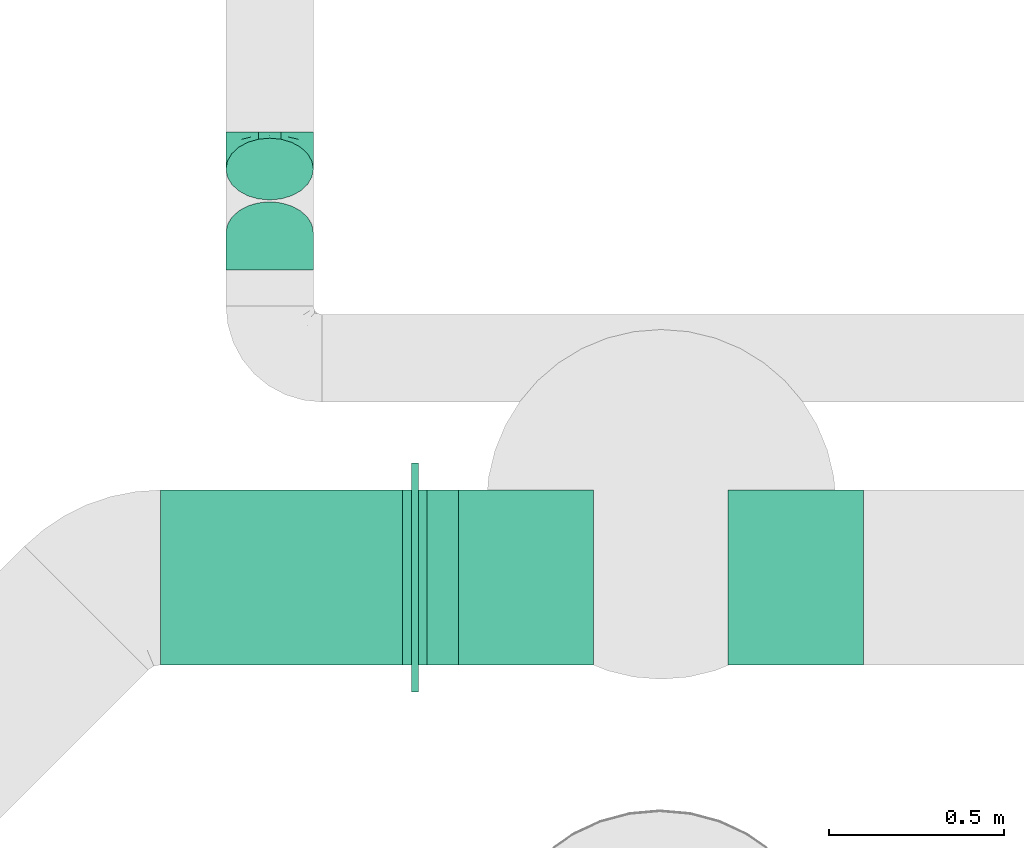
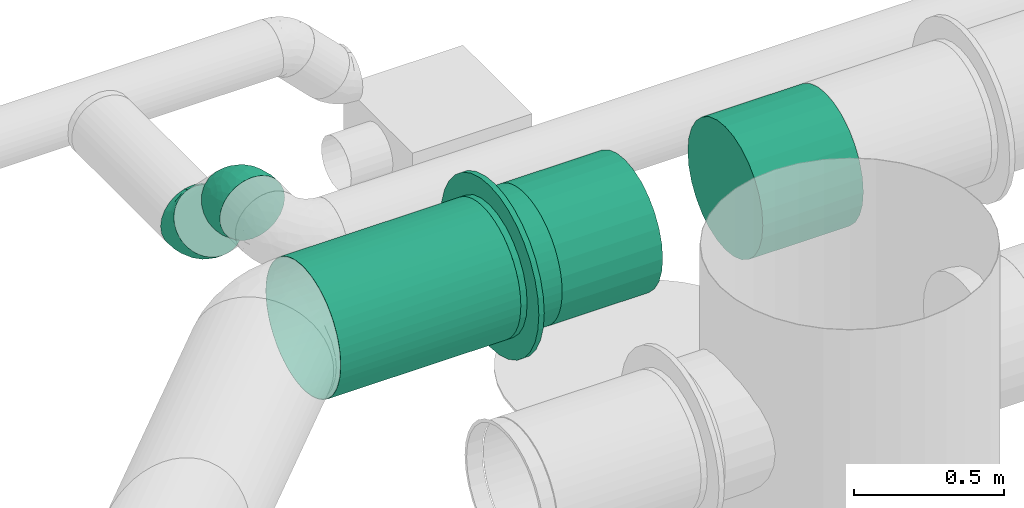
# One storey, part 12 of 31: 4 flow fittings, 2 flow segments, 1 flow controller.
"""IFC2X3 building model written with IfcOpenShell, lengths in millimetres."""

from ifc_helpers import new_model, entity, si_unit, converted_unit, derived_unit, direction, frame, origin_with_axes, origin_2d_with_axis, place, context, subcontext, project, spatial, hollow_circle, extrude, open_shell, surface_model, source, transform, mapped, type_object, element, save


model = new_model("IFC2X3")

# Units and contexts
model_context = context("Model", 3, precision=0.01, world=frame((0.0, 4.29681676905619e-09, 0.0)), true_north=direction((4.01073788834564e-13, 1.0)))
plan_context = context("Plan", 3, precision=0.01, world=frame((0.0, 4.29681676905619e-09, 0.0)), true_north=direction((4.01073788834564e-13, 1.0)))
body_context = subcontext(model_context, "Body", "Model", "MODEL_VIEW")
ifc_project = project(units=[converted_unit("PLANEANGLEUNIT", "DEGREE", entity("IfcPositiveLengthMeasure", 0.0174532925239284), si_unit("PLANEANGLEUNIT", "RADIAN"), dimensions=[0, 0, 0, 0, 0, 0, 0]), si_unit("AREAUNIT", "SQUARE_METRE"), si_unit("LENGTHUNIT", "METRE", prefix="MILLI"), si_unit("MASSUNIT", "GRAM", prefix="KILO"), si_unit("POWERUNIT", "WATT"), si_unit("PRESSUREUNIT", "PASCAL", prefix="KILO"), si_unit("FORCEUNIT", "NEWTON", prefix="KILO"), si_unit("ELECTRICVOLTAGEUNIT", "VOLT"), si_unit("ELECTRICCURRENTUNIT", "AMPERE"), si_unit("THERMODYNAMICTEMPERATUREUNIT", "DEGREE_CELSIUS"), si_unit("TIMEUNIT", "SECOND"), si_unit("VOLUMEUNIT", "CUBIC_METRE"), derived_unit("LINEARVELOCITYUNIT", [(si_unit("LENGTHUNIT", "METRE"), 1), (si_unit("TIMEUNIT", "SECOND"), -1)]), derived_unit("VOLUMETRICFLOWRATEUNIT", [(si_unit("VOLUMEUNIT", "CUBIC_METRE"), 1), (si_unit("TIMEUNIT", "SECOND"), -1)]), derived_unit("THERMALTRANSMITTANCEUNIT", [(si_unit("POWERUNIT", "WATT"), 1), (si_unit("THERMODYNAMICTEMPERATUREUNIT", "KELVIN"), -1), (si_unit("AREAUNIT", "SQUARE_METRE"), -1)]), derived_unit("SOUNDPRESSUREUNIT", [(si_unit("PRESSUREUNIT", "PASCAL"), 1)])], contexts=[model_context, plan_context])

# Site, building, storey
site_placement = place(None, frame((0.0, -4.29681676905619e-09, 0.0), z_axis=(0.0, 0.0, 1.0), x_axis=(1.0, 0.0, 0.0)))
site = spatial("IfcSite", under=ifc_project, at=site_placement, CompositionType="ELEMENT")
building_placement = place(site_placement, frame((0.0, 4.29681676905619e-09, 0.0), z_axis=(0.0, 0.0, 1.0), x_axis=(1.0, 0.0, 0.0)))
building = spatial("IfcBuilding", under=site, at=building_placement, Name="mc-building", CompositionType="ELEMENT")
storey_placement = place(building_placement, frame((0.0, 0.0, 210900.0), z_axis=(0.0, 0.0, 1.0), x_axis=(1.0, 0.0, 0.0)))
storey = spatial("IfcBuildingStorey", under=building, at=storey_placement, Name="Nivå F", CompositionType="ELEMENT", Elevation=210900.0)

# Flow controller
damper_type = type_object("IfcDamperType", Name="IRIS-050", PredefinedType="BALANCINGDAMPER")
shared_shape_1 = source(origin_with_axes(), body_context, "Body", "SurfaceModel", [
    surface_model("IfcShellBasedSurfaceModel", [(35.0, 225.24221, -108.47093), (35.0, 55.63023, -243.73198), (35.0, 108.47093, -225.24221), (35.0, 155.87244, -195.45787), (35.0, 243.73198, -55.63023), (35.0, 250.0, 0.0), (35.0, -225.24221, -108.47093), (35.0, 195.45787, -155.87244), (35.0, -55.63023, -243.73198), (35.0, -155.87244, -195.45787), (35.0, -108.47093, -225.24221), (35.0, 0.0, -250.0), (35.0, -195.45787, -155.87244), (35.0, -243.73198, -55.63023), (35.0, 243.73198, 55.63023), (35.0, 225.24221, 108.47093), (35.0, 195.45787, 155.87244), (35.0, 155.87244, 195.45787), (35.0, 108.47093, 225.24221), (35.0, -195.45787, 155.87244), (35.0, 55.63023, 243.73198), (35.0, 0.0, 250.0), (35.0, -55.63023, 243.73198), (35.0, -250.0, 0.0), (35.0, -225.24221, 108.47093), (35.0, -243.73198, 55.63023), (35.0, -108.47093, 225.24221), (35.0, -155.87244, 195.45787), (10.5, 0.0, 250.0), (10.5, 55.63023, 243.73198), (10.5, 108.47093, 225.24221), (10.5, -108.47093, 225.24221), (10.5, 225.24221, 108.47093), (10.5, 243.73198, 55.63023), (10.5, 195.45787, 155.87244), (10.5, 155.87244, 195.45787), (10.5, -225.24221, 108.47093), (10.5, -250.0, 0.0), (10.5, -195.45787, 155.87244), (10.5, -155.87244, 195.45787), (10.5, -55.63023, 243.73198), (10.5, -243.73198, 55.63023), (10.5, 250.0, 0.0), (10.5, 243.73198, -55.63023), (10.5, 225.24221, -108.47093), (10.5, -225.24221, -108.47093), (10.5, 155.87244, -195.45787), (10.5, 108.47093, -225.24221), (10.5, 55.63023, -243.73198), (10.5, 195.45787, -155.87244), (10.5, 0.0, -250.0), (10.5, -155.87244, -195.45787), (10.5, -195.45787, -155.87244), (10.5, -243.73198, -55.63023), (10.5, -55.63023, -243.73198), (10.5, -108.47093, -225.24221), (10.5, 63.89208, -321.20717), (10.5, 181.94925, -272.30629), (10.5, 272.30629, -181.94925), (10.5, 125.32882, -302.57054), (10.5, 231.57747, -231.57747), (10.5, 302.57054, -125.32882), (10.5, 321.20717, -63.89208), (10.5, 231.57747, 231.57747), (10.5, -181.94925, -272.30629), (10.5, 0.0, -327.5), (10.5, -63.89208, -321.20717), (10.5, -125.32882, -302.57054), (10.5, -272.30629, -181.94925), (10.5, -231.57747, -231.57747), (10.5, -302.57054, -125.32882), (10.5, -321.20717, 63.89208), (10.5, -327.5, 0.0), (10.5, -321.20717, -63.89208), (10.5, 327.5, 0.0), (10.5, 302.57054, 125.32882), (10.5, 272.30629, 181.94925), (10.5, 125.32882, 302.57054), (10.5, 63.89208, 321.20717), (10.5, 181.94925, 272.30629), (10.5, 0.0, 327.5), (10.5, -272.30629, 181.94925), (10.5, -302.57054, 125.32882), (10.5, -125.32882, 302.57054), (10.5, -231.57747, 231.57747), (10.5, -181.94925, 272.30629), (10.5, -63.89208, 321.20717), (10.5, 321.20717, 63.89208), (-10.5, 63.89208, 321.20717), (-10.5, 125.32882, 302.57054), (-10.5, 321.20717, 63.89208), (-10.5, -63.89208, 321.20717), (-10.5, 0.0, 327.5), (-10.5, 231.57747, 231.57747), (-10.5, 181.94925, 272.30629), (-10.5, 302.57054, 125.32882), (-10.5, 272.30629, 181.94925), (-10.5, -321.20717, 63.89208), (-10.5, -231.57747, 231.57747), (-10.5, -125.32882, 302.57054), (-10.5, -272.30629, 181.94925), (-10.5, -181.94925, 272.30629), (-10.5, -302.57054, 125.32882), (-10.5, -231.57747, -231.57747), (-10.5, -327.5, 0.0), (-10.5, 327.5, 0.0), (-10.5, 321.20717, -63.89208), (-10.5, 302.57054, -125.32882), (-10.5, -181.94925, -272.30629), (-10.5, 181.94925, -272.30629), (-10.5, 272.30629, -181.94925), (-10.5, 63.89208, -321.20717), (-10.5, 125.32882, -302.57054), (-10.5, 231.57747, -231.57747), (-10.5, -272.30629, -181.94925), (-10.5, -302.57054, -125.32882), (-10.5, -321.20717, -63.89208), (-10.5, -63.89208, -321.20717), (-10.5, -125.32882, -302.57054), (-10.5, 0.0, -327.5), (-10.5, 225.24221, -108.47093), (-10.5, 55.63023, -243.73198), (-10.5, 108.47093, -225.24221), (-10.5, 155.87244, -195.45787), (-10.5, 243.73198, -55.63023), (-10.5, 250.0, 0.0), (-10.5, -225.24221, -108.47093), (-10.5, 195.45787, -155.87244), (-10.5, -55.63023, -243.73198), (-10.5, -155.87244, -195.45787), (-10.5, -108.47093, -225.24221), (-10.5, 0.0, -250.0), (-10.5, -195.45787, -155.87244), (-10.5, -243.73198, -55.63023), (-10.5, 243.73198, 55.63023), (-10.5, 225.24221, 108.47093), (-10.5, 195.45787, 155.87244), (-10.5, 155.87244, 195.45787), (-10.5, 108.47093, 225.24221), (-10.5, -195.45787, 155.87244), (-10.5, 55.63023, 243.73198), (-10.5, 0.0, 250.0), (-10.5, -55.63023, 243.73198), (-10.5, -250.0, 0.0), (-10.5, -225.24221, 108.47093), (-10.5, -243.73198, 55.63023), (-10.5, -108.47093, 225.24221), (-10.5, -155.87244, 195.45787), (-35.0, 0.0, 250.0), (-35.0, 55.63023, 243.73198), (-35.0, 108.47093, 225.24221), (-35.0, -108.47093, 225.24221), (-35.0, 225.24221, 108.47093), (-35.0, 243.73198, 55.63023), (-35.0, 195.45787, 155.87244), (-35.0, 155.87244, 195.45787), (-35.0, -225.24221, 108.47093), (-35.0, -250.0, 0.0), (-35.0, -195.45787, 155.87244), (-35.0, -155.87244, 195.45787), (-35.0, -55.63023, 243.73198), (-35.0, -243.73198, 55.63023), (-35.0, 250.0, 0.0), (-35.0, 243.73198, -55.63023), (-35.0, 225.24221, -108.47093), (-35.0, -225.24221, -108.47093), (-35.0, 155.87244, -195.45787), (-35.0, 108.47093, -225.24221), (-35.0, 55.63023, -243.73198), (-35.0, 195.45787, -155.87244), (-35.0, 0.0, -250.0), (-35.0, -155.87244, -195.45787), (-35.0, -195.45787, -155.87244), (-35.0, -243.73198, -55.63023), (-35.0, -55.63023, -243.73198), (-35.0, -108.47093, -225.24221)], [open_shell([[[0, 1, 2]], [[0, 2, 3]], [[4, 5, 0]], [[1, 0, 6]], [[3, 7, 0]], [[6, 0, 5]], [[8, 9, 10]], [[9, 8, 11]], [[12, 9, 6]], [[6, 9, 11]], [[1, 6, 11]], [[5, 13, 6]], [[5, 14, 13]], [[14, 15, 16]], [[14, 16, 17]], [[14, 18, 19]], [[20, 21, 18]], [[18, 14, 17]], [[22, 18, 21]], [[23, 24, 25]], [[13, 24, 23]], [[26, 19, 18]], [[27, 19, 26]], [[24, 14, 19]], [[22, 26, 18]], [[24, 13, 14]], [[28, 29, 30]], [[31, 28, 30]], [[32, 33, 34]], [[35, 34, 33]], [[30, 35, 36]], [[37, 35, 33]], [[31, 38, 39]], [[31, 40, 28]], [[38, 30, 36]], [[37, 41, 36]], [[30, 38, 31]], [[37, 36, 35]], [[33, 42, 37]], [[42, 43, 44]], [[45, 42, 44]], [[46, 47, 44]], [[48, 44, 47]], [[44, 49, 46]], [[50, 44, 48]], [[45, 51, 52]], [[53, 37, 45]], [[50, 54, 51]], [[55, 51, 54]], [[50, 51, 45]], [[44, 50, 45]], [[45, 37, 42]], [[53, 13, 37]], [[45, 6, 53]], [[9, 52, 51]], [[51, 55, 10]], [[45, 52, 12]], [[54, 8, 55]], [[12, 6, 45]], [[6, 13, 53]], [[13, 23, 37]], [[8, 10, 55]], [[9, 51, 10]], [[9, 12, 52]], [[8, 54, 11]], [[54, 50, 11]], [[50, 48, 1]], [[44, 43, 0]], [[7, 49, 44]], [[46, 49, 3]], [[4, 43, 42]], [[2, 47, 3]], [[2, 1, 48]], [[46, 3, 47]], [[2, 48, 47]], [[49, 7, 3]], [[44, 0, 7]], [[4, 0, 43]], [[42, 5, 4]], [[50, 1, 11]], [[33, 14, 42]], [[32, 15, 33]], [[17, 34, 35]], [[35, 30, 18]], [[32, 34, 16]], [[29, 20, 30]], [[16, 15, 32]], [[15, 14, 33]], [[14, 5, 42]], [[20, 18, 30]], [[17, 35, 18]], [[17, 16, 34]], [[20, 29, 21]], [[29, 28, 21]], [[26, 31, 39]], [[36, 41, 24]], [[19, 38, 36]], [[27, 39, 38]], [[37, 25, 41]], [[22, 21, 40]], [[40, 31, 22]], [[22, 31, 26]], [[27, 26, 39]], [[38, 19, 27]], [[36, 24, 19]], [[25, 24, 41]], [[37, 23, 25]], [[40, 21, 28]], [[56, 57, 58]], [[56, 59, 57]], [[57, 60, 58]], [[61, 62, 63]], [[56, 61, 64]], [[56, 58, 61]], [[63, 64, 61]], [[65, 56, 66]], [[64, 67, 66]], [[64, 66, 56]], [[68, 69, 70]], [[71, 69, 64]], [[72, 70, 69]], [[72, 73, 70]], [[63, 62, 74]], [[75, 76, 74]], [[63, 74, 76]], [[64, 63, 71]], [[77, 78, 63]], [[78, 71, 63]], [[63, 79, 77]], [[80, 71, 78]], [[81, 82, 71]], [[81, 71, 83]], [[72, 69, 71]], [[83, 84, 81]], [[85, 84, 83]], [[83, 71, 86]], [[80, 86, 71]], [[75, 74, 87]], [[88, 89, 90]], [[88, 91, 92]], [[93, 89, 94]], [[95, 90, 93]], [[93, 96, 95]], [[90, 89, 93]], [[97, 88, 90]], [[98, 99, 100]], [[98, 101, 99]], [[91, 88, 99]], [[102, 100, 97]], [[97, 100, 99]], [[97, 99, 88]], [[97, 103, 104]], [[97, 90, 105]], [[105, 106, 107]], [[108, 105, 107]], [[109, 107, 110]], [[109, 111, 107]], [[112, 111, 109]], [[109, 110, 113]], [[108, 107, 111]], [[103, 114, 115]], [[104, 103, 115]], [[116, 104, 115]], [[117, 108, 111]], [[118, 108, 117]], [[108, 103, 97]], [[119, 117, 111]], [[105, 108, 97]], [[116, 73, 104]], [[70, 116, 115]], [[115, 114, 68]], [[64, 103, 108]], [[118, 67, 108]], [[114, 103, 69]], [[68, 70, 115]], [[70, 73, 116]], [[73, 72, 104]], [[65, 66, 117]], [[66, 67, 118]], [[64, 69, 103]], [[108, 67, 64]], [[69, 68, 114]], [[118, 117, 66]], [[117, 119, 65]], [[59, 112, 109]], [[56, 111, 112]], [[57, 109, 113]], [[107, 106, 61]], [[58, 110, 107]], [[60, 113, 110]], [[62, 106, 105]], [[65, 111, 56]], [[56, 112, 59]], [[57, 59, 109]], [[113, 60, 57]], [[60, 110, 58]], [[61, 58, 107]], [[62, 61, 106]], [[105, 74, 62]], [[111, 65, 119]], [[90, 87, 105]], [[75, 90, 95]], [[95, 96, 76]], [[79, 93, 94]], [[94, 89, 77]], [[96, 93, 63]], [[89, 88, 78]], [[76, 75, 95]], [[75, 87, 90]], [[87, 74, 105]], [[78, 92, 80]], [[78, 77, 89]], [[79, 63, 93]], [[94, 77, 79]], [[63, 76, 96]], [[88, 92, 78]], [[83, 99, 101]], [[86, 91, 99]], [[85, 101, 98]], [[102, 97, 82]], [[81, 100, 102]], [[84, 98, 100]], [[71, 97, 104]], [[101, 85, 83]], [[83, 86, 99]], [[80, 91, 86]], [[98, 84, 85]], [[100, 81, 84]], [[82, 81, 102]], [[71, 82, 97]], [[104, 72, 71]], [[91, 80, 92]], [[120, 121, 122]], [[120, 122, 123]], [[124, 125, 120]], [[121, 120, 126]], [[123, 127, 120]], [[126, 120, 125]], [[128, 129, 130]], [[129, 128, 131]], [[132, 129, 126]], [[126, 129, 131]], [[121, 126, 131]], [[125, 133, 126]], [[125, 134, 133]], [[134, 135, 136]], [[134, 136, 137]], [[134, 138, 139]], [[140, 141, 138]], [[138, 134, 137]], [[142, 138, 141]], [[143, 144, 145]], [[133, 144, 143]], [[146, 139, 138]], [[147, 139, 146]], [[144, 134, 139]], [[142, 146, 138]], [[144, 133, 134]], [[148, 149, 150]], [[151, 148, 150]], [[152, 153, 154]], [[155, 154, 153]], [[150, 155, 156]], [[157, 155, 153]], [[151, 158, 159]], [[151, 160, 148]], [[158, 150, 156]], [[157, 161, 156]], [[150, 158, 151]], [[157, 156, 155]], [[153, 162, 157]], [[162, 163, 164]], [[165, 162, 164]], [[166, 167, 164]], [[168, 164, 167]], [[164, 169, 166]], [[170, 164, 168]], [[165, 171, 172]], [[173, 157, 165]], [[170, 174, 171]], [[175, 171, 174]], [[170, 171, 165]], [[164, 170, 165]], [[165, 157, 162]], [[173, 133, 157]], [[165, 126, 173]], [[129, 172, 171]], [[171, 175, 130]], [[165, 172, 132]], [[174, 128, 175]], [[132, 126, 165]], [[126, 133, 173]], [[133, 143, 157]], [[128, 130, 175]], [[129, 171, 130]], [[129, 132, 172]], [[128, 174, 131]], [[174, 170, 131]], [[170, 168, 121]], [[164, 163, 120]], [[127, 169, 164]], [[166, 169, 123]], [[124, 163, 162]], [[122, 167, 123]], [[122, 121, 168]], [[166, 123, 167]], [[122, 168, 167]], [[169, 127, 123]], [[164, 120, 127]], [[124, 120, 163]], [[162, 125, 124]], [[170, 121, 131]], [[153, 134, 162]], [[152, 135, 153]], [[137, 154, 155]], [[155, 150, 138]], [[152, 154, 136]], [[149, 140, 150]], [[136, 135, 152]], [[135, 134, 153]], [[134, 125, 162]], [[140, 138, 150]], [[137, 155, 138]], [[137, 136, 154]], [[140, 149, 141]], [[149, 148, 141]], [[146, 151, 159]], [[156, 161, 144]], [[139, 158, 156]], [[147, 159, 158]], [[157, 145, 161]], [[142, 141, 160]], [[160, 151, 142]], [[142, 151, 146]], [[147, 146, 159]], [[158, 139, 147]], [[156, 144, 139]], [[145, 144, 161]], [[157, 143, 145]], [[160, 141, 148]]])]),
])
flow_controller_placement = place(storey_placement, frame((719260.98509, 440215.23198, 3950.0), z_axis=(0.0, 0.0, 1.0), x_axis=(1.0, 0.0, 0.0)))
element("IfcFlowController", 1, at=flow_controller_placement, inside=storey, type_object=damper_type, Name="IRIS-050", context=body_context, shape_type="MappedRepresentation", body=[
    mapped(shared_shape_1, transform((0.0, 0.0, 0.0), scale=1.0)),
])

# Flow fittings
duct_fitting_type_1 = type_object("IfcDuctFittingType", Name="magicirc_tapoutlet_001", PredefinedType="CONNECTOR")
shared_shape_2 = source(origin_with_axes(), body_context, "Body", "SurfaceModel", [
    surface_model("IfcShellBasedSurfaceModel", [(125.0, -55.63023, -243.73198), (125.0, -108.47093, -225.24221), (0.0, -55.63023, -243.73198), (0.0, 55.63023, -243.73198), (125.0, 108.47093, -225.24221), (125.0, 55.63023, -243.73198), (125.0, 250.0, 0.0), (125.0, 0.0, -250.0), (125.0, 195.45787, -155.87244), (125.0, 225.24221, -108.47093), (125.0, 155.87244, -195.45787), (125.0, -195.45787, -155.87244), (125.0, -243.73198, 55.63023), (125.0, -155.87244, -195.45787), (125.0, -225.24221, -108.47093), (125.0, -243.73198, -55.63023), (125.0, -250.0, 0.0), (125.0, 243.73198, -55.63023), (125.0, 243.73198, 55.63023), (125.0, 195.45787, 155.87244), (125.0, 225.24221, 108.47093), (125.0, 155.87244, 195.45787), (125.0, 108.47093, 225.24221), (125.0, 55.63023, 243.73198), (125.0, -195.45787, 155.87244), (125.0, -225.24221, 108.47093), (125.0, -155.87244, 195.45787), (125.0, -108.47093, 225.24221), (125.0, -55.63023, 243.73198), (125.0, 0.0, 250.0), (0.0, 55.63023, 243.73198), (0.0, 108.47093, 225.24221), (0.0, 155.87244, 195.45787), (0.0, 0.0, 250.0), (0.0, 195.45787, 155.87244), (0.0, 225.24221, 108.47093), (0.0, 243.73198, 55.63023), (0.0, 250.0, 0.0), (0.0, 195.45787, -155.87244), (0.0, 243.73198, -55.63023), (0.0, 225.24221, -108.47093), (0.0, 155.87244, -195.45787), (0.0, 108.47093, -225.24221), (0.0, 0.0, -250.0), (0.0, -155.87244, -195.45787), (0.0, -108.47093, -225.24221), (0.0, -195.45787, -155.87244), (0.0, -225.24221, -108.47093), (0.0, -243.73198, -55.63023), (0.0, -250.0, 0.0), (0.0, -243.73198, 55.63023), (0.0, -225.24221, 108.47093), (0.0, -195.45787, 155.87244), (0.0, -155.87244, 195.45787), (0.0, -108.47093, 225.24221), (0.0, -55.63023, 243.73198), (-261.84466, 0.0, -250.0), (-261.84466, -55.63023, -243.73198), (-261.84466, 55.63023, -243.73198), (-261.84466, 243.73198, 55.63023), (-261.84466, 108.47093, -225.24221), (-261.84466, 225.24221, -108.47093), (-261.84466, 195.45787, -155.87244), (-261.84466, 155.87244, -195.45787), (-261.84466, -250.0, 0.0), (-261.84466, -243.73198, 55.63023), (-261.84466, -108.47093, -225.24221), (-261.84466, -155.87244, -195.45787), (-261.84466, -195.45787, -155.87244), (-261.84466, -225.24221, -108.47093), (-261.84466, -243.73198, -55.63023), (-261.84466, 243.73198, -55.63023), (-261.84466, 195.45787, 155.87244), (-261.84466, 225.24221, 108.47093), (-261.84466, 108.47093, 225.24221), (-261.84466, 155.87244, 195.45787), (-261.84466, 55.63023, 243.73198), (-261.84466, 0.0, 250.0), (-261.84466, -195.45787, 155.87244), (-261.84466, -225.24221, 108.47093), (-261.84466, -108.47093, 225.24221), (-261.84466, -55.63023, 243.73198), (-261.84466, -155.87244, 195.45787), (-261.84466, 250.0, 0.0)], [open_shell([[[0, 1, 2]], [[3, 4, 5]], [[6, 7, 5]], [[4, 6, 5]], [[8, 9, 6]], [[8, 6, 10]], [[6, 4, 10]], [[11, 7, 12]], [[7, 13, 1]], [[1, 0, 7]], [[14, 11, 12]], [[7, 11, 13]], [[15, 14, 12]], [[15, 12, 16]], [[17, 6, 9]], [[7, 18, 19]], [[19, 18, 20]], [[19, 21, 22]], [[23, 7, 22]], [[7, 19, 22]], [[7, 23, 24]], [[24, 25, 7]], [[12, 7, 25]], [[26, 23, 27]], [[26, 24, 23]], [[28, 27, 23]], [[23, 29, 28]], [[6, 18, 7]], [[30, 29, 23]], [[31, 23, 22]], [[32, 22, 21]], [[33, 29, 30]], [[30, 23, 31]], [[22, 32, 31]], [[21, 34, 32]], [[35, 19, 20]], [[36, 20, 18]], [[37, 18, 6]], [[34, 19, 35]], [[35, 20, 36]], [[18, 37, 36]], [[19, 34, 21]], [[37, 6, 17]], [[9, 8, 38]], [[39, 17, 9]], [[37, 17, 39]], [[38, 40, 9]], [[9, 40, 39]], [[8, 41, 38]], [[42, 10, 4]], [[43, 5, 7]], [[41, 10, 42]], [[42, 4, 3]], [[5, 43, 3]], [[10, 41, 8]], [[7, 0, 2]], [[44, 1, 13]], [[2, 43, 7]], [[45, 2, 1]], [[1, 44, 45]], [[13, 46, 44]], [[47, 11, 14]], [[48, 14, 15]], [[49, 15, 16]], [[46, 11, 47]], [[47, 14, 48]], [[15, 49, 48]], [[11, 46, 13]], [[50, 16, 12]], [[51, 12, 25]], [[52, 25, 24]], [[49, 16, 50]], [[50, 12, 51]], [[25, 52, 51]], [[24, 53, 52]], [[54, 26, 27]], [[55, 27, 28]], [[33, 28, 29]], [[53, 26, 54]], [[54, 27, 55]], [[28, 33, 55]], [[26, 53, 24]], [[7, 5, 4]], [[18, 7, 4]], [[7, 1, 0]], [[13, 7, 11]], [[7, 22, 23]], [[24, 23, 26]], [[29, 28, 23]], [[18, 4, 6]], [[56, 57, 58]], [[58, 59, 60]], [[59, 61, 62]], [[63, 59, 62]], [[63, 60, 59]], [[58, 64, 65]], [[66, 67, 58]], [[58, 57, 66]], [[64, 68, 69]], [[69, 70, 64]], [[64, 67, 68]], [[58, 67, 64]], [[61, 59, 71]], [[72, 59, 58]], [[73, 59, 72]], [[74, 75, 72]], [[74, 58, 76]], [[72, 58, 74]], [[76, 58, 77]], [[78, 77, 79]], [[58, 65, 79]], [[80, 81, 77]], [[77, 82, 80]], [[78, 82, 77]], [[58, 79, 77]], [[83, 71, 59]], [[76, 33, 30]], [[74, 30, 31]], [[75, 31, 32]], [[77, 33, 76]], [[76, 30, 74]], [[31, 75, 74]], [[32, 72, 75]], [[73, 34, 35]], [[59, 35, 36]], [[83, 36, 37]], [[72, 34, 73]], [[73, 35, 59]], [[36, 83, 59]], [[34, 72, 32]], [[37, 39, 83]], [[40, 38, 62]], [[39, 40, 71]], [[71, 83, 39]], [[62, 61, 40]], [[71, 40, 61]], [[38, 63, 62]], [[60, 41, 42]], [[58, 42, 3]], [[56, 3, 43]], [[63, 41, 60]], [[60, 42, 58]], [[3, 56, 58]], [[41, 63, 38]], [[57, 43, 2]], [[66, 2, 45]], [[67, 45, 44]], [[56, 43, 57]], [[57, 2, 66]], [[45, 67, 66]], [[44, 68, 67]], [[69, 46, 47]], [[70, 47, 48]], [[64, 48, 49]], [[68, 46, 69]], [[69, 47, 70]], [[48, 64, 70]], [[46, 68, 44]], [[65, 49, 50]], [[79, 50, 51]], [[78, 51, 52]], [[64, 49, 65]], [[65, 50, 79]], [[51, 78, 79]], [[52, 82, 78]], [[80, 53, 54]], [[81, 54, 55]], [[77, 55, 33]], [[82, 53, 80]], [[80, 54, 81]], [[55, 77, 81]], [[53, 82, 52]], [[62, 63, 59]], [[59, 71, 61]]])]),
])
for number, where, z_axis, x_axis, name in (
    (2, (720418.42068, 440215.23198, 3950.0), (0.0, -1.0, 0.0), (1.0, 0.0, 0.0), "magicirc_tapoutlet_001"),
    (3, (719509.88112, 440215.23198, 3950.0), (0.0, 1.0, 0.0), (-1.0, 0.0, 0.0), "magicirc_tapoutlet_001"),
):
    element("IfcFlowFitting", number, at=place(storey_placement, frame(where, z_axis=z_axis, x_axis=x_axis)), inside=storey, type_object=duct_fitting_type_1, Name=name, context=body_context, shape_type="MappedRepresentation", body=[
        mapped(shared_shape_2, transform((0.0, 0.0, 0.0), scale=1.0)),
    ])
duct_fitting_type_2 = type_object("IfcDuctFittingType", Name="magicirc_elbow_short_001", PredefinedType="BEND")
shared_shape_3 = source(origin_with_axes(), body_context, "Body", "SurfaceModel", [
    surface_model("IfcShellBasedSurfaceModel", [(-62.13204, 0.0, -125.0), (-62.13204, -32.35238, -120.74073), (-62.13204, 32.35238, -120.74073), (-62.13204, 62.5, -108.25318), (-62.13204, 88.38835, -88.38835), (-62.13204, 108.25318, -62.5), (-62.13204, 120.74073, -32.35238), (-62.13204, -62.5, -108.25318), (-62.13204, -88.38835, -88.38835), (-62.13204, -125.0, 0.0), (-62.13204, -108.25318, -62.5), (-62.13204, -120.74073, -32.35238), (-62.13204, 125.0, 0.0), (-62.13204, -120.74073, 32.35238), (-62.13204, 120.74073, 32.35238), (-62.13204, 108.25318, 62.5), (-62.13204, 32.35238, 120.74073), (-62.13204, 62.5, 108.25318), (-62.13204, 88.38835, 88.38835), (-62.13204, -88.38835, 88.38835), (-62.13204, -108.25318, 62.5), (-62.13204, -32.35238, 120.74073), (-62.13204, 0.0, 125.0), (-62.13204, -62.5, 108.25318), (-32.61257, 120.48054, -62.5), (43.93398, 43.93398, -125.0), (21.05739, 66.81057, -120.74073), (-18.56602, 106.43398, -88.38835), (-0.26019, 88.12816, -108.25318), (132.32233, -44.45436, 0.0), (-44.45436, 132.32233, 0.0), (88.12816, -0.26019, -108.25318), (66.81057, 21.05739, -120.74073), (106.43398, -18.56602, -88.38835), (129.31057, -41.44261, -32.35238), (120.48054, -32.61257, -62.5), (-41.44261, 129.31057, -32.35238), (-41.44261, 129.31057, 32.35238), (-32.61257, 120.48054, 62.5), (-18.56602, 106.43398, 88.38835), (-0.26019, 88.12816, 108.25318), (21.05739, 66.81057, 120.74073), (43.93398, 43.93398, 125.0), (129.31057, -41.44261, 32.35238), (106.43398, -18.56602, 88.38835), (120.48054, -32.61257, 62.5), (88.12816, -0.26019, 108.25318), (66.81057, 21.05739, 120.74073), (-39.32094, -100.77129, 72.52866), (-25.3983, -115.58366, 40.92131), (-9.38975, -99.61313, 67.6303), (-31.08244, -121.94188, 0.0), (-8.4822, -119.71595, 0.0), (-40.71594, 99.20513, 81.38635), (35.22622, 7.0983, 122.8817), (11.13029, 29.36587, 124.68547), (6.93461, -16.74165, 121.22697), (-25.98216, -78.69804, 94.74513), (-17.69423, -50.99343, 111.83063), (2.27359, -83.55864, 84.32151), (-3.43912, -67.17105, 100.02812), (-29.92798, -19.88945, 122.8817), (77.07668, -63.79757, 67.63031), (37.22525, -89.79474, 60.1728), (61.92349, -89.5906, 35.66993), (-28.63512, 12.8945, 124.68547), (-43.55871, 45.16564, 117.17454), (-19.1971, 46.34588, 119.14586), (20.11216, -107.05726, 35.36285), (-42.64489, 65.81413, 107.6176), (18.18237, -43.89615, 109.72868), (-52.56495, 126.90301, 0.0), (-48.14682, 116.23669, 52.46898), (99.6893, -63.77069, 40.92131), (43.10591, -104.06687, 0.0), (48.5695, -23.5461, 111.83062), (99.06017, -43.45196, 72.52866), (74.02008, -37.27576, 94.74513), (46.20365, -49.09439, 98.73245), (108.20454, -64.24733, 0.0), (17.31186, -111.89141, 0.0), (-1.13628, 62.73759, 117.17454), (-27.44697, 77.92943, 103.54984), (29.58221, -71.41779, 87.09722), (90.64978, -78.65415, 0.0), (66.87784, -91.36051, 0.0), (19.5636, -107.13664, -35.66992), (-25.3983, -115.58366, -40.92131), (11.13029, 29.36586, -124.68547), (-28.63512, 12.89449, -124.68547), (-29.92797, -19.88945, -122.8817), (-41.3581, 98.93914, -81.38635), (-35.69649, 74.51237, -103.54983), (-19.1971, 46.34588, -119.14586), (-43.55871, 45.16564, -117.17454), (2.04406, -67.38589, -98.73245), (-9.38975, -99.61313, -67.63031), (-25.98216, -78.69804, -94.74513), (48.5695, -23.54609, -111.83063), (-48.14682, 116.23669, -52.46898), (-39.32094, -100.77129, -72.52866), (-16.38313, 76.69211, -107.6176), (-17.69423, -50.99343, -111.83063), (61.47947, -89.92235, -35.36286), (6.93461, -16.74165, -121.22697), (18.18238, -43.89615, -109.72868), (57.47721, -60.69254, -84.32152), (74.02008, -37.27576, -94.74513), (77.07668, -63.79756, -67.63031), (37.17222, -89.8167, -60.1728), (29.58221, -71.41778, -87.09723), (99.6893, -63.77069, -40.92131), (-1.13628, 62.73759, -117.17454), (35.22623, 7.0983, -122.8817), (99.06017, -43.45196, -72.52866), (49.92892, -45.06528, -100.02812)], [open_shell([[[0, 1, 2]], [[3, 2, 4]], [[1, 5, 2]], [[4, 2, 5]], [[5, 1, 6]], [[7, 8, 1]], [[9, 1, 8]], [[10, 11, 8]], [[9, 8, 11]], [[9, 6, 1]], [[9, 12, 6]], [[12, 13, 14]], [[15, 14, 16]], [[16, 17, 18]], [[15, 16, 18]], [[16, 14, 19]], [[20, 19, 13]], [[19, 14, 13]], [[21, 22, 23]], [[19, 23, 22]], [[19, 22, 16]], [[9, 13, 12]], [[24, 25, 26]], [[27, 26, 28]], [[25, 24, 29]], [[24, 26, 27]], [[30, 29, 24]], [[25, 31, 32]], [[25, 33, 31]], [[33, 34, 35]], [[34, 33, 29]], [[25, 29, 33]], [[24, 36, 30]], [[30, 37, 38]], [[30, 38, 39]], [[39, 40, 41]], [[39, 41, 30]], [[30, 41, 42]], [[43, 44, 45]], [[29, 44, 43]], [[46, 42, 47]], [[44, 29, 46]], [[42, 46, 30]], [[29, 30, 46]], [[48, 49, 50]], [[51, 52, 49]], [[53, 39, 38]], [[54, 55, 56]], [[23, 57, 58]], [[59, 60, 57]], [[49, 20, 13]], [[56, 61, 58]], [[21, 61, 22]], [[21, 23, 58]], [[62, 63, 64]], [[23, 19, 57]], [[16, 22, 65]], [[66, 65, 67]], [[50, 68, 63]], [[69, 17, 66]], [[66, 17, 16]], [[70, 56, 58]], [[61, 65, 22]], [[71, 14, 37]], [[68, 64, 63]], [[71, 12, 14]], [[14, 15, 72]], [[62, 64, 73]], [[69, 53, 18]], [[48, 19, 20]], [[68, 50, 49]], [[68, 74, 64]], [[75, 47, 54]], [[65, 55, 67]], [[76, 45, 44]], [[47, 75, 46]], [[55, 65, 56]], [[45, 76, 73]], [[45, 73, 43]], [[75, 77, 46]], [[78, 62, 77]], [[73, 79, 43]], [[68, 52, 80]], [[41, 40, 81]], [[69, 18, 17]], [[39, 53, 82]], [[63, 62, 83]], [[37, 72, 38]], [[49, 13, 51]], [[30, 71, 37]], [[64, 84, 73]], [[82, 67, 81]], [[64, 74, 85]], [[39, 82, 40]], [[42, 54, 47]], [[42, 41, 55]], [[55, 41, 81]], [[56, 70, 75]], [[48, 57, 19]], [[46, 77, 44]], [[59, 57, 50]], [[64, 85, 84]], [[78, 77, 75]], [[76, 77, 62]], [[72, 53, 38]], [[18, 53, 15]], [[58, 61, 21]], [[65, 61, 56]], [[55, 54, 42]], [[75, 54, 56]], [[13, 9, 51]], [[79, 73, 84]], [[79, 29, 43]], [[63, 83, 59]], [[14, 72, 37]], [[53, 72, 15]], [[65, 66, 16]], [[69, 67, 82]], [[67, 69, 66]], [[69, 82, 53]], [[82, 81, 40]], [[55, 81, 67]], [[49, 48, 20]], [[57, 48, 50]], [[77, 76, 44]], [[73, 76, 62]], [[60, 58, 57]], [[78, 70, 83]], [[52, 68, 49]], [[80, 74, 68]], [[63, 59, 50]], [[83, 70, 60]], [[83, 60, 59]], [[70, 58, 60]], [[70, 78, 75]], [[62, 78, 83]], [[86, 52, 87]], [[26, 25, 88]], [[0, 2, 89]], [[90, 1, 0]], [[4, 91, 92]], [[88, 89, 93]], [[94, 92, 93]], [[10, 87, 11]], [[3, 4, 92]], [[95, 96, 97]], [[32, 31, 98]], [[99, 6, 36]], [[87, 10, 100]], [[101, 27, 28]], [[87, 51, 11]], [[34, 29, 79]], [[97, 7, 102]], [[103, 84, 85]], [[1, 90, 102]], [[86, 74, 80]], [[96, 86, 87]], [[8, 100, 10]], [[7, 1, 102]], [[97, 8, 7]], [[104, 105, 102]], [[90, 89, 104]], [[6, 12, 71]], [[106, 107, 108]], [[71, 30, 36]], [[109, 96, 110]], [[111, 34, 79]], [[36, 24, 99]], [[112, 101, 28]], [[31, 33, 107]], [[2, 3, 94]], [[94, 89, 2]], [[111, 35, 34]], [[101, 91, 27]], [[4, 5, 91]], [[112, 88, 93]], [[98, 104, 113]], [[114, 33, 35]], [[107, 106, 115]], [[98, 31, 107]], [[28, 26, 112]], [[25, 32, 113]], [[108, 114, 111]], [[105, 104, 98]], [[111, 79, 84]], [[103, 86, 109]], [[89, 88, 104]], [[103, 108, 111]], [[108, 103, 109]], [[113, 88, 25]], [[86, 80, 52]], [[71, 36, 6]], [[114, 107, 33]], [[103, 74, 86]], [[95, 97, 102]], [[100, 97, 96]], [[99, 91, 5]], [[27, 91, 24]], [[89, 90, 0]], [[102, 90, 104]], [[98, 113, 32]], [[88, 113, 104]], [[51, 87, 52]], [[51, 9, 11]], [[96, 109, 86]], [[109, 110, 106]], [[91, 99, 24]], [[6, 99, 5]], [[92, 94, 3]], [[89, 94, 93]], [[88, 112, 26]], [[101, 93, 92]], [[93, 101, 112]], [[101, 92, 91]], [[111, 114, 35]], [[107, 114, 108]], [[97, 100, 8]], [[87, 100, 96]], [[115, 98, 107]], [[95, 105, 110]], [[84, 103, 111]], [[85, 74, 103]], [[109, 106, 108]], [[110, 105, 115]], [[110, 115, 106]], [[105, 98, 115]], [[105, 95, 102]], [[96, 95, 110]]])]),
])
for number, where, z_axis, x_axis, name in (
    (4, (718845.42889, 441426.88434, 3525.0), (-1.0, 0.0, 0.0), (0.0, -1.0, 0.0), "magicirc_elbow_short_001"),
    (5, (718845.42889, 441156.88434, 3795.0), (1.0, 0.0, 0.0), (0.0, -0.707106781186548, 0.707106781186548), "magicirc_elbow_short_001"),
):
    element("IfcFlowFitting", number, at=place(storey_placement, frame(where, z_axis=z_axis, x_axis=x_axis)), inside=storey, type_object=duct_fitting_type_2, Name=name, context=body_context, shape_type="MappedRepresentation", body=[
        mapped(shared_shape_3, transform((0.0, 0.0, 0.0), scale=1.0)),
    ])

# Flow segments
duct_segment_type = type_object("IfcDuctSegmentType", Name="KK001T - Spiro kanaler, Forsinket stål", PredefinedType="RIGIDSEGMENT")
shared_shape_4 = source(origin_with_axes(), body_context, "Body", "SweptSolid", [
    extrude(hollow_circle(Radius=250.0, WallThickness=2.0, at=origin_2d_with_axis()), frame((0.0, 0.0, 0.0), z_axis=(1.0, 0.0, 0.0), x_axis=(0.0, 1.0, 0.0)), (0.0, 0.0, 1.0), 88.9),
])
flow_segment_1_placement = place(storey_placement, frame((719295.98509, 440215.23198, 3950.0), z_axis=(0.0, 0.0, 1.0), x_axis=(1.0, 0.0, 0.0)))
element("IfcFlowSegment", 6, at=flow_segment_1_placement, inside=storey, type_object=duct_segment_type, Name="KK001T - Spiro kanaler, Forsinket stål", context=body_context, shape_type="MappedRepresentation", body=[
    mapped(shared_shape_4, transform((0.0, 0.0, 0.0), scale=1.0)),
])
shared_shape_5 = source(origin_with_axes(), body_context, "Body", "SweptSolid", [
    extrude(hollow_circle(Radius=250.0, WallThickness=2.0, at=origin_2d_with_axis()), frame((0.0, 0.0, 0.0), z_axis=(1.0, 0.0, 0.0), x_axis=(0.0, 1.0, 0.0)), (0.0, 0.0, 1.0), 692.6),
])
flow_segment_2_placement = place(storey_placement, frame((718533.41169, 440215.23198, 3950.0), z_axis=(0.0, 0.0, 1.0), x_axis=(1.0, 0.0, 0.0)))
element("IfcFlowSegment", 7, at=flow_segment_2_placement, inside=storey, type_object=duct_segment_type, Name="KK001T - Spiro kanaler, Forsinket stål", context=body_context, shape_type="MappedRepresentation", body=[
    mapped(shared_shape_5, transform((0.0, 0.0, 0.0), scale=1.0)),
])

save(model, "model.ifc")
